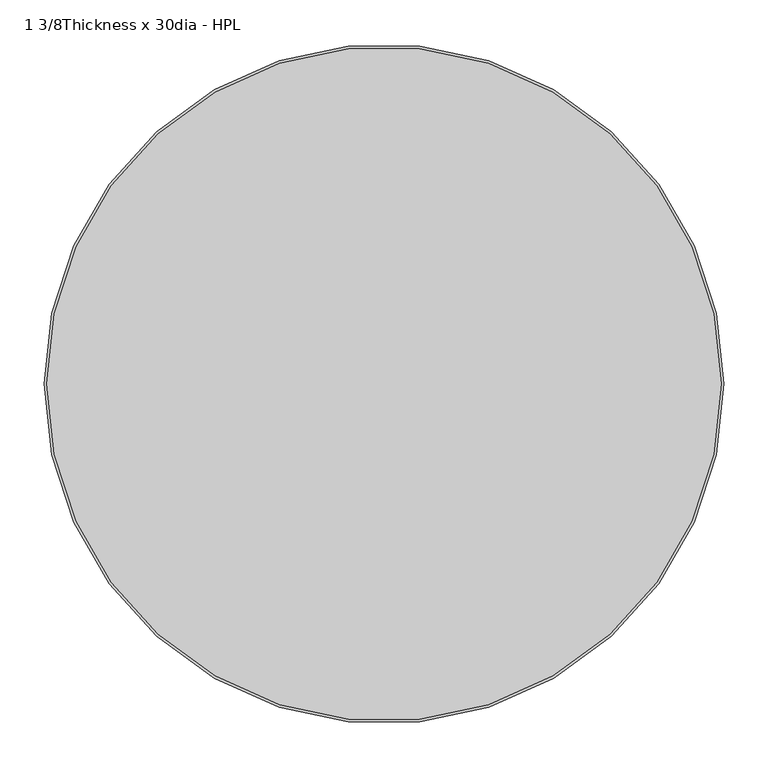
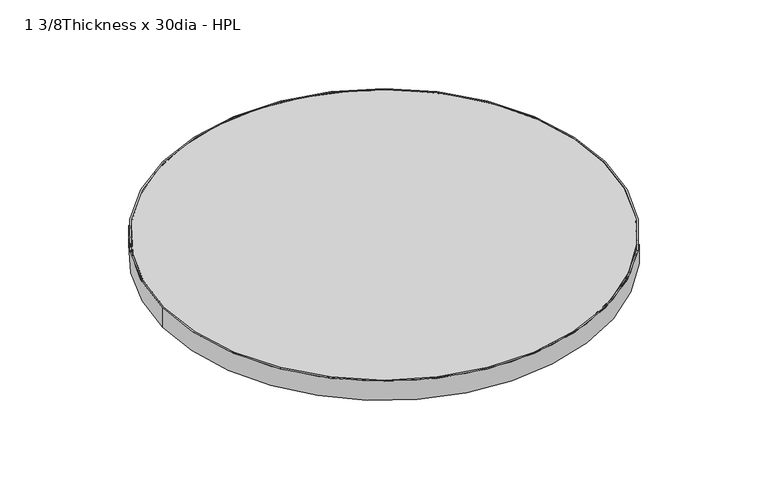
"""IFC4 building model written with IfcOpenShell, lengths in millimetres: furniture geometry, Steelcase - Groupwork - Table - Top - Round : 1 3/8Thickness x 30dia - HPL."""

from ifc_helpers import new_model, si_unit, point, frame, origin, origin_2d, place, context, project, spatial, circle_curve, trimmed, segment, composite_curve, outline, extrude, source, transform, mapped, element, save


def furniture_1_3_8thickness_x_30dia_hpl_53064dcf(model_context):
    return source(origin(), model_context, "Body", "SweptSolid", [
        extrude(outline(composite_curve([segment(trimmed(circle_curve(origin_2d(), 384.048), [point((-384.048, 0.0))], [point((384.048, 0.0))], False, "CARTESIAN"), True, "CONTINUOUS"), segment(trimmed(circle_curve(origin_2d(), 384.048), [point((384.048, 0.0))], [point((-384.048, 0.0))], False, "CARTESIAN"), True, "CONTINUOUS")], self_intersect=False), holes=[composite_curve([segment(trimmed(circle_curve(origin_2d(), 381.0), [point((381.0, 0.0))], [point((-381.0, 0.0))], True, "CARTESIAN"), True, "CONTINUOUS"), segment(trimmed(circle_curve(origin_2d(), 381.0), [point((-381.0, 0.0))], [point((381.0, 0.0))], True, "CARTESIAN"), True, "CONTINUOUS")], self_intersect=False)]), frame((0.0, 0.0, 695.579), z_axis=(0.0, 0.0, 1.0), x_axis=(1.0, 0.0, 0.0)), (0.0, 0.0, 1.0), 35.052),
        extrude(outline(composite_curve([segment(trimmed(circle_curve(origin_2d(), 381.0), [point((-381.0, 0.0))], [point((381.0, 0.0))], False, "CARTESIAN"), True, "CONTINUOUS"), segment(trimmed(circle_curve(origin_2d(), 381.0), [point((381.0, 0.0))], [point((-381.0, 0.0))], False, "CARTESIAN"), True, "CONTINUOUS")], self_intersect=False)), frame((0.0, 0.0, 695.579), z_axis=(0.0, 0.0, 1.0), x_axis=(1.0, 0.0, 0.0)), (0.0, 0.0, 1.0), 35.052),
    ])


if __name__ == "__main__":
    model = new_model("IFC4")
    model_context = context("Model", 3, world=origin())
    ifc_project = project(units=[si_unit("LENGTHUNIT", "METRE", prefix="MILLI")], contexts=[model_context])
    site = spatial("IfcSite", under=ifc_project)
    building = spatial("IfcBuilding", under=site)
    placement = place(None, origin())
    furniture_1_3_8thickness_x_30dia_hpl_shape = furniture_1_3_8thickness_x_30dia_hpl_53064dcf(model_context)
    element("IfcFurniture", 1, ObjectType="Steelcase - Groupwork - Table - Top - Round : 1 3/8Thickness x 30dia - HPL", at=placement, inside=building, context=model_context, shape_type="MappedRepresentation", body=[
        mapped(furniture_1_3_8thickness_x_30dia_hpl_shape, transform((0.0, 0.0, 0.0), x_axis=(1.0, 0.0, 0.0), y_axis=(0.0, 1.0, 0.0), z_axis=(0.0, 0.0, 1.0))),
    ])
    save(model, "model.ifc")
